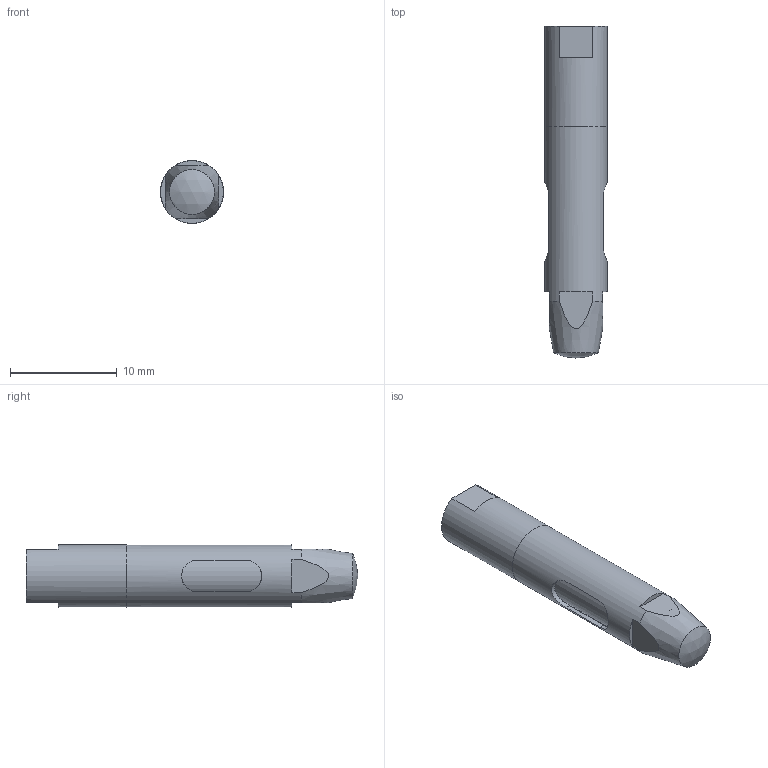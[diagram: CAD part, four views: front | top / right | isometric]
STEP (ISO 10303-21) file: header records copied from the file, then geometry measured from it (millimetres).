
FILE_DESCRIPTION(/* description */ (''),/* implementation_level */ '2;1');
FILE_NAME(/* name */ 'T:\Anwender\Praktikant\Tobias Könemund\Innengreifer\Parametrisch\G-GI006_vereinfacht.stp',/* time_stamp */ '2015-10-30T08:21:03+01:00',/* author */ ('Praktikant'),/* organization */ ('GRIP GmbH'),/* preprocessor_version */ 'ST-DEVELOPER v15.2',/* originating_system */ 'Autodesk Inventor 2014',/* authorisation */ '');
FILE_SCHEMA (('AUTOMOTIVE_DESIGN { 1 0 10303 214 3 1 1 }'));
Length unit declared in the file: millimetre
Products named in the file (3): G-GI006-2.1-1 Dorn_vereinfacht-15; G-GI006-1.1-1 Hülse_vereinfacht-04; Baugruppe_vereinfacht
Bounding box: 5.9 x 31.14 x 5.9 mm (x, y, z)
Volume: 781.8 mm3; surface area: 1143.5 mm2
Topology: 2 solids, 2 shells, 33 faces, 86 edges, 57 vertices
Faces by surface type: plane 21, cylinder 9, cone 2, sphere 1
Full cylindrical faces by diameter (mm): 3 x1, 4.9 x1, 5.1 x1, 5.9 x2
Entity records: 1092 total; most frequent: CARTESIAN_POINT 300, DIRECTION 154, ORIENTED_EDGE 138, EDGE_CURVE 69, AXIS2_PLACEMENT_3D 59, VERTEX_POINT 49, EDGE_LOOP 46, LINE 36
